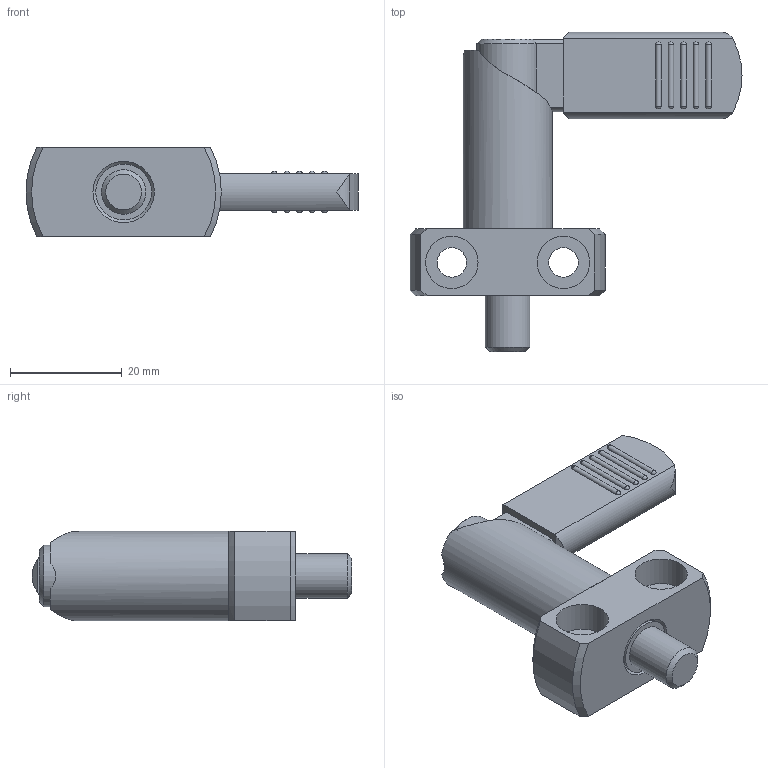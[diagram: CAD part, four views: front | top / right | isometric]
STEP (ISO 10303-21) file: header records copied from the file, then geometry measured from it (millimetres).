
FILE_DESCRIPTION( ( 'STEP AP203' ), '1' );
FILE_NAME( 'C:/Temp/Ganter_Step_05_03_2020/data/3_1/gn612_2/Indexing plunger GN 612.2-8-16-B (deactivated).stp', '2020-03-12T08:35:10', ( 'License CC BY-ND 4.0' ), ( 'CADENAS' ), ' ', 'PARTsolutions', ' ' );
FILE_SCHEMA( ( 'CONFIG_CONTROL_DESIGN' ) );
Length unit declared in the file: millimetre
Products named in the file (3): Indexing plunger GN 612.2-8-16-B (deactivated); _Rastriegel GN 612.2-8-16-B (unbetaetigt)-a; _Rastriegel GN 612.2-8-16-B (unbetaetigt)-b
Assembly tree (2 placements, depth 2):
  Indexing plunger GN 612.2-8-16-B (deactivated)
    _Rastriegel GN 612.2-8-16-B (unbetaetigt)-a
    _Rastriegel GN 612.2-8-16-B (unbetaetigt)-b
Bounding box: 59.5 x 57.25 x 16 mm (x, y, z)
Volume: 13928.8 mm3; surface area: 8741 mm2
Topology: 2 solids, 2 shells, 103 faces, 265 edges, 167 vertices
Faces by surface type: cylinder 44, plane 29, sphere 20, cone 9, torus 1
Full cylindrical faces by diameter (mm): 5.3 x2, 6 x2, 7.4 x1, 7.6 x1, 8 x1, 9.4 x4, 10 x2, 11 x1, 12 x1, 16 x1
Entity records: 3075 total; most frequent: CARTESIAN_POINT 754, DIRECTION 479, ORIENTED_EDGE 406, AXIS2_PLACEMENT_3D 208, EDGE_CURVE 203, EDGE_LOOP 150, VERTEX_POINT 145, FACE_OUTER_BOUND 119
